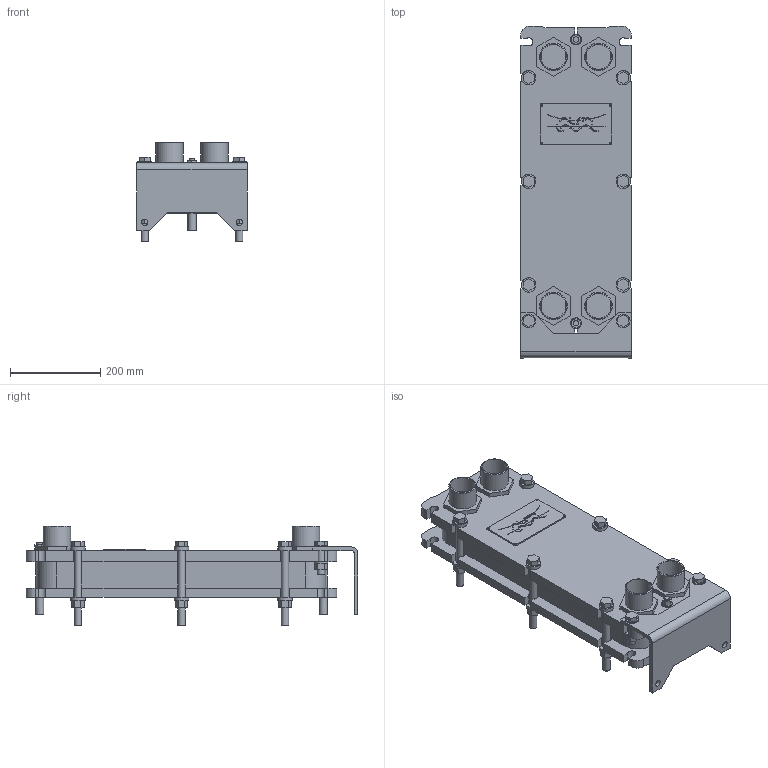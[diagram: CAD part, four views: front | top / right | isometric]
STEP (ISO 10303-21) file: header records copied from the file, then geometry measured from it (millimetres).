
FILE_DESCRIPTION((''),'2;1');
FILE_NAME('C:\temp\T5_FG_LC160_02_Rev0.stp','2009-09-07T15:56:37',('CNSHFLU'),(''),'Autodesk Inventor 2008','Autodesk Inventor 2008','');
FILE_SCHEMA(('AUTOMOTIVE_DESIGN { 1 2 10303 214 0 1 1 1 }'));
Length unit declared in the file: millimetre
Products named in the file (1): T5
Bounding box: 245 x 737 x 221 mm (x, y, z)
Volume: 14652581.8 mm3; surface area: 947271.2 mm2
Topology: 1 solids, 1 shells, 834 faces, 2272 edges, 1493 vertices
Faces by surface type: plane 605, cylinder 218, cone 11
Full cylindrical faces by diameter (mm): 3.506 x4, 12 x4, 14 x2, 16 x16, 18 x2, 24 x2, 30 x4, 32 x12, 55 x3, 55.003 x1, 56 x4, 61 x4
Entity records: 25763 total; most frequent: CARTESIAN_POINT 4462, ORIENTED_EDGE 4336, DIRECTION 4333, EDGE_CURVE 2168, VECTOR 1673, LINE 1673, VERTEX_POINT 1459, AXIS2_PLACEMENT_3D 1330
